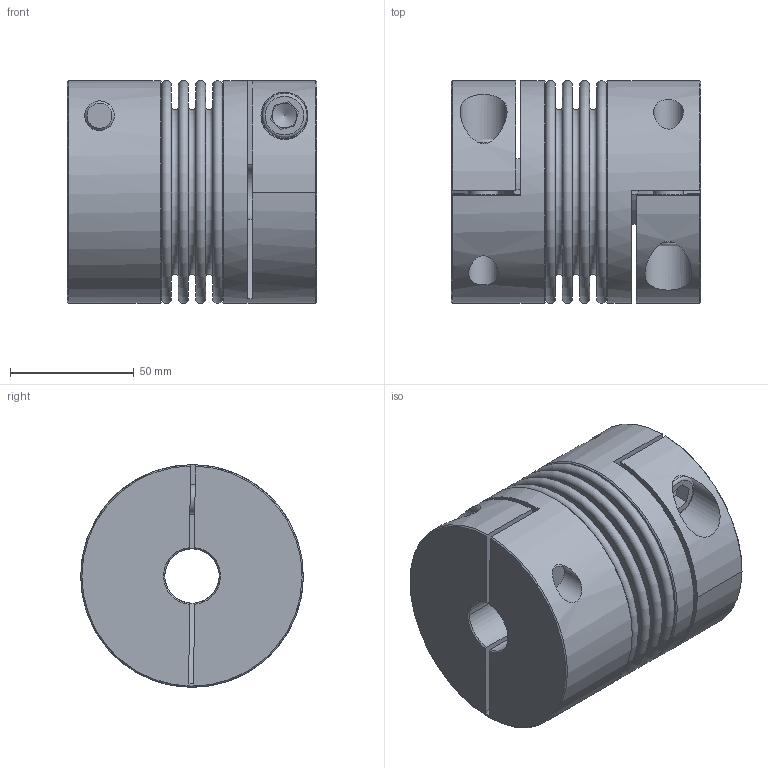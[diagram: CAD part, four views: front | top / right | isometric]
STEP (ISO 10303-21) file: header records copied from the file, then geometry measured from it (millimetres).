
FILE_DESCRIPTION( ( 'Unknown' ), '1' );
FILE_NAME( 'K:/Konstruktion/Homepage/KB4AL/KB4AL-200-101.stp', 'Unknown', ( 'Unknown' ), ( 'Unknown' ), 'PSStep 16.0.42', 'Unknown', ' ' );
FILE_SCHEMA( ( 'AUTOMOTIVE_DESIGN { 1 0 10303 214 1 1 1 1 }' ) );
Length unit declared in the file: millimetre
Products named in the file (4): Assem1; KN200_Standard_1; Socket Head Cap Screw_DIN_DIN 912 M12 x 35 --- 35N_3; BK200_Standard_0
Assembly tree (5 placements, depth 2):
  Assem1
    KN200_Standard_1  x2
    Socket Head Cap Screw_DIN_DIN 912 M12 x 35 --- 35N_3  x2
    BK200_Standard_0
Bounding box: 100.75 x 90 x 90 mm (x, y, z)
Volume: 444915.5 mm3; surface area: 130738.6 mm2
Topology: 5 solids, 5 shells, 126 faces, 274 edges, 176 vertices
Faces by surface type: plane 66, cylinder 26, torus 22, cone 12
Full cylindrical faces by diameter (mm): 12 x4, 12.5 x2, 18 x2, 19 x2, 22 x2, 79.2 x2, 80.4 x2, 90 x2
Entity records: 2857 total; most frequent: CARTESIAN_POINT 515, DIRECTION 361, ORIENTED_EDGE 244, AXIS2_PLACEMENT_3D 161, EDGE_LOOP 140, EDGE_CURVE 122, FACE_OUTER_BOUND 112, VERTEX_POINT 107
